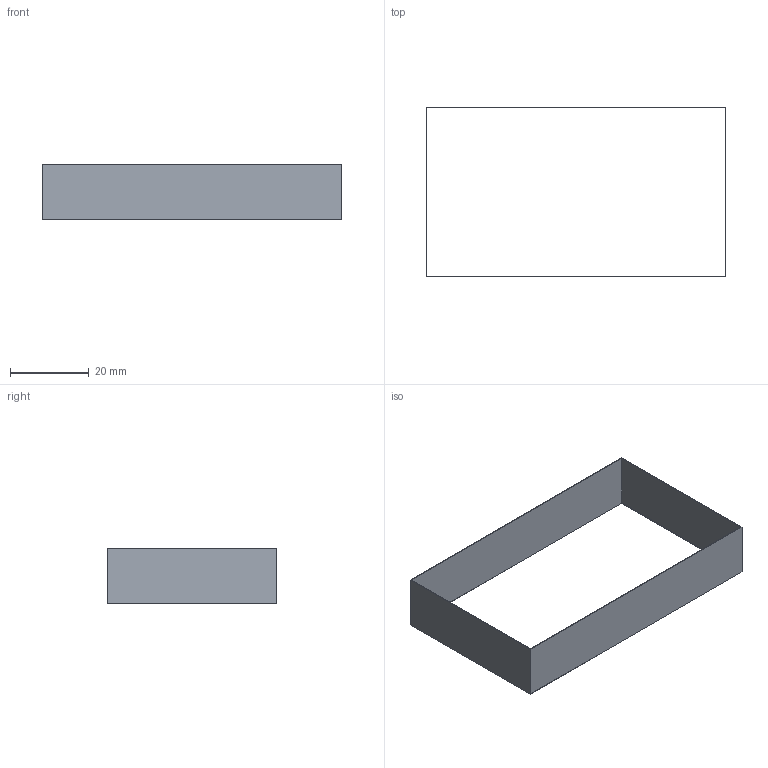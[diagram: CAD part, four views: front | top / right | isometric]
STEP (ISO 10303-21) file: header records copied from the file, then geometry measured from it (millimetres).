
FILE_DESCRIPTION(('Open CASCADE Model'),'2;1');
FILE_NAME('Open CASCADE Shape Model','2026-10-09T18:49:16',('Author'),( 'Open CASCADE'),'Open CASCADE STEP processor 7.9','Open CASCADE 7.9' ,'Unknown');
FILE_SCHEMA(('AUTOMOTIVE_DESIGN { 1 0 10303 214 1 1 1 1 }'));
Length unit declared in the file: millimetre
Products named in the file (2): Shield_Frame_76x43; walls
Assembly tree (1 placements, depth 2):
  Shield_Frame_76x43
    walls
Bounding box: 76.2 x 43.2 x 14 mm (x, y, z)
Volume: 666.4 mm3; surface area: 6759.2 mm2
Topology: 1 solids, 1 shells, 10 faces, 24 edges, 16 vertices
Faces by surface type: plane 10
Entity records: 625 total; most frequent: CARTESIAN_POINT 116, DIRECTION 80, LINE 56, VECTOR 56, ORIENTED_EDGE 48, PCURVE 48, DEFINITIONAL_REPRESENTATION 48, EDGE_CURVE 24
